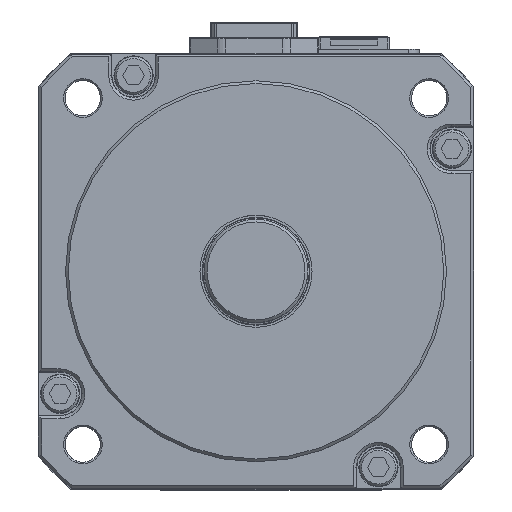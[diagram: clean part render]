
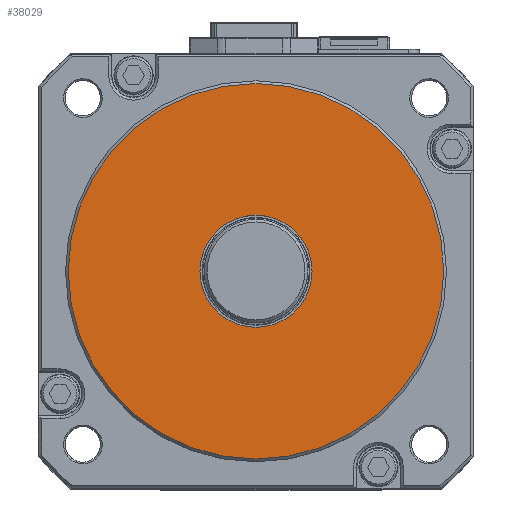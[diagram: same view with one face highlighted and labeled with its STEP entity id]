
A CAD part, top view. The second image highlights one B-rep face of the part: STEP entity #38029.
In plain terms, the highlighted planar face has unit normal (0, 0, 1).
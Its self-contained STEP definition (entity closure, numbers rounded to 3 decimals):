
#976 = DIRECTION ( 'NONE',  ( 0., 0., 1. ) ) ;
#1069 = DIRECTION ( 'NONE',  ( 1., 0., 0. ) ) ;
#7397 = ORIENTED_EDGE ( 'NONE', *, *, #59378, .T. ) ;
#7699 = CARTESIAN_POINT ( 'NONE',  ( 34.5, 0., 13. ) ) ;
#12091 = DIRECTION ( 'NONE',  ( 0., 0., 1. ) ) ;
#12716 = DIRECTION ( 'NONE',  ( 1., 0., 0. ) ) ;
#13755 = VERTEX_POINT ( 'NONE', #7699 ) ;
#14920 = EDGE_CURVE ( 'NONE', #69172, #69172, #54131, .T. ) ;
#17052 = PLANE ( 'NONE',  #19372 ) ;
#19372 = AXIS2_PLACEMENT_3D ( 'NONE', #33486, #976, #12716 ) ;
#22806 = FACE_OUTER_BOUND ( 'NONE', #55381, .T. ) ;
#22907 = CIRCLE ( 'NONE', #24088, 34.5 ) ;
#23857 = DIRECTION ( 'NONE',  ( 0., 0., 1. ) ) ;
#24088 = AXIS2_PLACEMENT_3D ( 'NONE', #46579, #23857, #52247 ) ;
#24617 = AXIS2_PLACEMENT_3D ( 'NONE', #49920, #12091, #1069 ) ;
#32141 = CARTESIAN_POINT ( 'NONE',  ( 10.3, 0., 13. ) ) ;
#33486 = CARTESIAN_POINT ( 'NONE',  ( 0., 0., 13. ) ) ;
#37921 = ORIENTED_EDGE ( 'NONE', *, *, #14920, .F. ) ;
#38029 = ADVANCED_FACE ( 'NONE', ( #44877, #22806 ), #17052, .T. ) ;
#44877 = FACE_BOUND ( 'NONE', #55217, .T. ) ;
#46579 = CARTESIAN_POINT ( 'NONE',  ( 0., 0., 13. ) ) ;
#49920 = CARTESIAN_POINT ( 'NONE',  ( 0., 0., 13. ) ) ;
#52247 = DIRECTION ( 'NONE',  ( 1., 0., 0. ) ) ;
#54131 = CIRCLE ( 'NONE', #24617, 10.3 ) ;
#55217 = EDGE_LOOP ( 'NONE', ( #37921 ) ) ;
#55381 = EDGE_LOOP ( 'NONE', ( #7397 ) ) ;
#59378 = EDGE_CURVE ( 'NONE', #13755, #13755, #22907, .T. ) ;
#69172 = VERTEX_POINT ( 'NONE', #32141 ) ;
